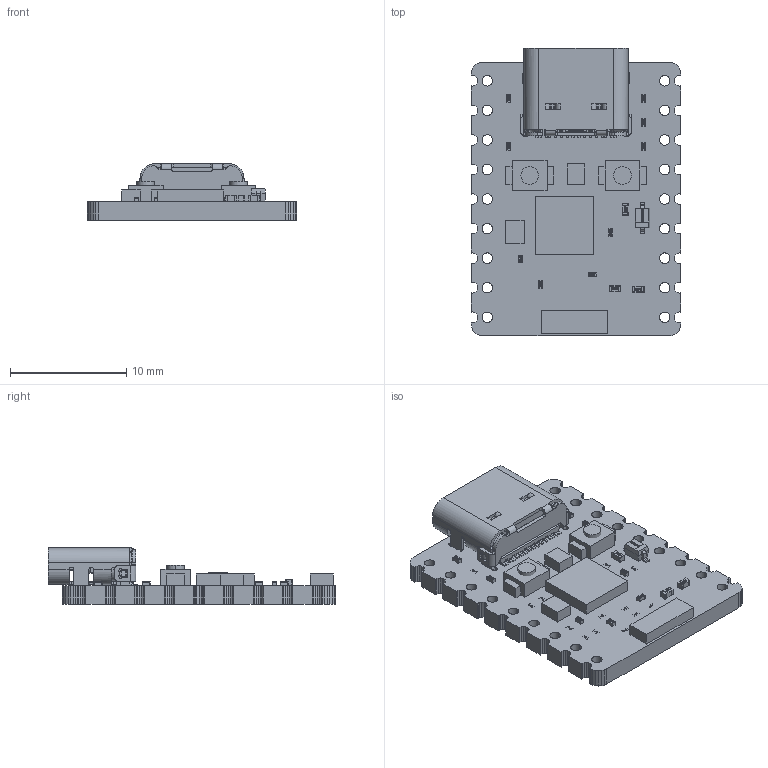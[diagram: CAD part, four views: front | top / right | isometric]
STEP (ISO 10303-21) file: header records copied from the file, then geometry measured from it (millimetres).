
FILE_DESCRIPTION((''),'2;1');
FILE_NAME('ESP32-C6-ZERO_ASM','2024-05-14T11:22:19',('xiaojisheng'),(''),'CREO PARAMETRIC BY PTC INC, 2021063','CREO PARAMETRIC BY PTC INC, 2021063','');
FILE_SCHEMA(('CONFIG_CONTROL_DESIGN','SHAPE_APPEARANCE_LAYERS_GROUPS'));
Products named in the file (85): BOARD; USER_LIBRARY-RES_0603-0201_1; USER_LIBRARY-RES_0603-0201_2; USER_LIBRARY-RES_0603-0201_3; USER_LIBRARY-RES_0603-0201_4; USER_LIBRARY-RES_0603-0201_ASM; L_ASM; R1_ASM; EXTRUDED-29178; 907732368_ASM; LED1_ASM; 2_A; 300; _10001; C_0201-1099_AF1_ASM_ASM; C_0201-4408_AF1_ASM_ASM; 3D_MODEL_ASM; C16_ASM; EXTRUDED-51780; 907732240_ASM; Y1_ASM; R5_ASM; R6_ASM; R7_ASM; R4_ASM; R3_ASM; R2_ASM; CYLINDER; 967154856_ASM; EXTRUDED-52493; 907731856_ASM; KEY1_ASM; KEY2_ASM; SOLID-53009; SOLID-143223; SOLID-144338; SOLID-145388; SOLID-146644; SOLID-147831; SOLID-150234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
Assembly tree (108 placements, depth 7):
  ESP32-C6-ZERO_ASM
    PCB_ASM
      BOARD
      L_ASM
        USER_LIBRARY-RES_0603-0201_ASM
          USER_LIBRARY-RES_0603-0201_1
          USER_LIBRARY-RES_0603-0201_2
          USER_LIBRARY-RES_0603-0201_3
          USER_LIBRARY-RES_0603-0201_4
      R1_ASM
        USER_LIBRARY-RES_0603-0201_ASM
          USER_LIBRARY-RES_0603-0201_1
          USER_LIBRARY-RES_0603-0201_2
          USER_LIBRARY-RES_0603-0201_3
          USER_LIBRARY-RES_0603-0201_4
      LED1_ASM
        907732368_ASM
          EXTRUDED-29178
      C16_ASM
        3D_MODEL_ASM
          C_0201-4408_AF1_ASM_ASM
            C_0201-1099_AF1_ASM_ASM
              2_A
              300
              _10001
      Y1_ASM
        907732240_ASM
          EXTRUDED-51780
      R5_ASM
        USER_LIBRARY-RES_0603-0201_ASM
          USER_LIBRARY-RES_0603-0201_1
          USER_LIBRARY-RES_0603-0201_2
          USER_LIBRARY-RES_0603-0201_3
          USER_LIBRARY-RES_0603-0201_4
      R6_ASM
        USER_LIBRARY-RES_0603-0201_ASM
          USER_LIBRARY-RES_0603-0201_1
          USER_LIBRARY-RES_0603-0201_2
          USER_LIBRARY-RES_0603-0201_3
          USER_LIBRARY-RES_0603-0201_4
      R7_ASM
        USER_LIBRARY-RES_0603-0201_ASM
          USER_LIBRARY-RES_0603-0201_1
          USER_LIBRARY-RES_0603-0201_2
          USER_LIBRARY-RES_0603-0201_3
          USER_LIBRARY-RES_0603-0201_4
      R4_ASM
        USER_LIBRARY-RES_0603-0201_ASM
          USER_LIBRARY-RES_0603-0201_1
          USER_LIBRARY-RES_0603-0201_2
          USER_LIBRARY-RES_0603-0201_3
          USER_LIBRARY-RES_0603-0201_4
      R3_ASM
        USER_LIBRARY-RES_0603-0201_ASM
          USER_LIBRARY-RES_0603-0201_1
          USER_LIBRARY-RES_0603-0201_2
          USER_LIBRARY-RES_0603-0201_3
          USER_LIBRARY-RES_0603-0201_4
      R2_ASM
        USER_LIBRARY-RES_0603-0201_ASM
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Bounding box: 18.02 x 24.72 x 4.85 mm (x, y, z)
Volume: 833.1 mm3; surface area: 2063.3 mm2
Topology: 116 solids, 128 shells, 8079 faces, 21529 edges, 14102 vertices
Faces by surface type: plane 5953, cylinder 1028, extrusion 910, sphere 138, cone 36, torus 12, bspline 2
Entity records: 121432 total; most frequent: CARTESIAN_POINT 24842, ORIENTED_EDGE 17982, DIRECTION 16609, EDGE_CURVE 8991, VECTOR 7169, LINE 7025, VERTEX_POINT 5946, AXIS2_PLACEMENT_3D 4720
